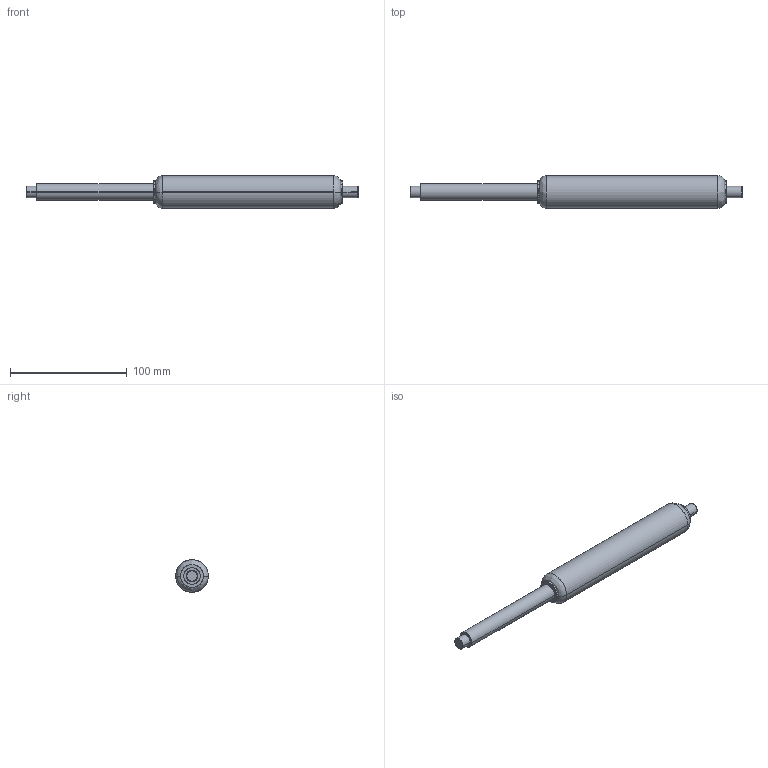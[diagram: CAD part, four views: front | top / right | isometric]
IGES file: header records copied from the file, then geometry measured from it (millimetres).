
Start section: SolidWorks IGES file using analytic representation for surfaces
Global section: file name: Z:\7-3D図面\01.図面\01.L\外形図\Ｇ／Ｓ\20170710(最新)\カタログ用\IGES\FGS-28-100-BB.IGS; native system: SolidWorks 2016; preprocessor: SolidWorks 2016; author: flgijutsu; date: 170710.171615; units: millimetre
Bounding box: 284 x 28 x 28 mm (x, y, z)
Surface area: 20300.6 mm2 (no closed solid volume)
Topology: 0 solids, 0 shells, 31 faces, 360 edges, 360 vertices
Faces by surface type: revolution 22, bspline 9
